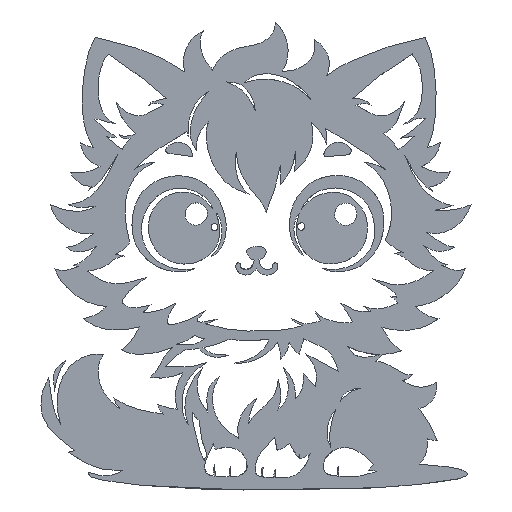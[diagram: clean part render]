
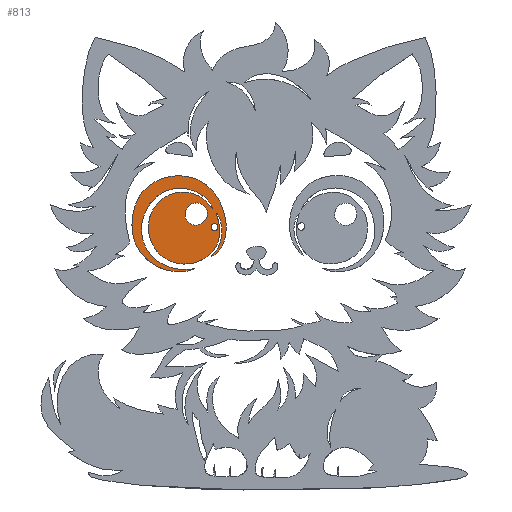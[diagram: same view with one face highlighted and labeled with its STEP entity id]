
A CAD part, top view. The second image highlights one B-rep face of the part: STEP entity #813.
In plain terms, the highlighted planar face has unit normal (0, 0, 1).
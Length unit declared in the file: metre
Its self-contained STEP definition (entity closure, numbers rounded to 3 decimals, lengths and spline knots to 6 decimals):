
#813=ADVANCED_FACE('',(#1684,#1685,#1686),#1687,.T.);
#1684=FACE_BOUND('',#2999,.T.);
#1685=FACE_OUTER_BOUND('',#3000,.T.);
#1686=FACE_BOUND('',#3001,.T.);
#1687=PLANE('',#3002);
#2999=EDGE_LOOP('',(#6835));
#3000=EDGE_LOOP('',(#6836,#6837,#6838,#6839));
#3001=EDGE_LOOP('',(#6840));
#3002=AXIS2_PLACEMENT_3D('',#6841,#6842,#6843);
#6835=ORIENTED_EDGE('',*,*,#8268,.F.);
#6836=ORIENTED_EDGE('',*,*,#8266,.F.);
#6837=ORIENTED_EDGE('',*,*,#8269,.F.);
#6838=ORIENTED_EDGE('',*,*,#8257,.F.);
#6839=ORIENTED_EDGE('',*,*,#8262,.F.);
#6840=ORIENTED_EDGE('',*,*,#8270,.F.);
#6841=CARTESIAN_POINT('',(0.087591,0.164995,0.0));
#6842=DIRECTION('',(0.0,0.0,1.0));
#6843=DIRECTION('',(1.0,0.0,-0.0));
#8257=EDGE_CURVE('',#11067,#11069,#11070,.T.);
#8262=EDGE_CURVE('',#11075,#11067,#11077,.T.);
#8266=EDGE_CURVE('',#11081,#11075,#11083,.T.);
#8268=EDGE_CURVE('',#11085,#11085,#11086,.T.);
#8269=EDGE_CURVE('',#11069,#11081,#11087,.T.);
#8270=EDGE_CURVE('',#11088,#11088,#11089,.T.);
#11067=VERTEX_POINT('',#15144);
#11069=VERTEX_POINT('',#15147);
#11070=B_SPLINE_CURVE_WITH_KNOTS('',3,(#15148,#15149,#15150,#15151,#15152,#15153,#15154,#15155,#15156,#15157,#15158,#15159,#15160,#15161,#15162,#15163,#15164,#15165,#15166),.UNSPECIFIED.,.F.,.F.,(4,1,1,1,1,1,1,1,1,1,1,1,1,1,1,1,4),(0.064943,0.077694,0.094635,0.109325,0.124219,0.140196,0.16106,0.180509,0.201172,0.224205,0.247279,0.266362,0.287119,0.308703,0.331196,0.350619,0.371541),.UNSPECIFIED.);
#11075=VERTEX_POINT('',#15179);
#11077=B_SPLINE_CURVE_WITH_KNOTS('',3,(#15182,#15183,#15184,#15185,#15186,#15187,#15188,#15189),.UNSPECIFIED.,.F.,.F.,(4,1,1,1,1,4),(0.0,0.011755,0.027093,0.046816,0.057498,0.064943),.UNSPECIFIED.);
#11081=VERTEX_POINT('',#15215);
#11083=B_SPLINE_CURVE_WITH_KNOTS('',3,(#15218,#15219,#15220,#15221,#15222,#15223,#15224,#15225,#15226,#15227,#15228,#15229,#15230,#15231,#15232,#15233,#15234,#15235,#15236,#15237,#15238,#15239,#15240),.UNSPECIFIED.,.F.,.F.,(4,1,1,1,1,1,1,1,1,1,1,1,1,1,1,1,1,1,1,1,4),(0.61658,0.628756,0.669548,0.688802,0.708905,0.724552,0.741287,0.764516,0.789948,0.80754,0.836195,0.86254,0.880174,0.896438,0.91473,0.933061,0.948887,0.964688,0.978023,0.991229,1.0),.UNSPECIFIED.);
#11085=VERTEX_POINT('',#15242);
#11086=CIRCLE('',#15243,0.0012);
#11087=B_SPLINE_CURVE_WITH_KNOTS('',3,(#15244,#15245,#15246,#15247,#15248,#15249,#15250,#15251,#15252,#15253,#15254,#15255,#15256,#15257,#15258,#15259,#15260),.UNSPECIFIED.,.F.,.F.,(4,1,1,1,1,1,1,1,1,1,1,1,1,1,4),(0.371541,0.381948,0.398678,0.411419,0.425904,0.448868,0.476038,0.494236,0.5119,0.532684,0.554037,0.571831,0.593244,0.604918,0.61658),.UNSPECIFIED.);
#11088=VERTEX_POINT('',#15261);
#11089=(B_SPLINE_CURVE(3,(#15263,#15264,#15265,#15266,#15267,#15268,#15269),.UNSPECIFIED.,.T.,.F.)B_SPLINE_CURVE_WITH_KNOTS((4,3,4),(0.0,0.5,1.0),.UNSPECIFIED.)RATIONAL_B_SPLINE_CURVE((1.0,0.333,0.333,1.0,0.333,0.333,1.0))BOUNDED_CURVE()REPRESENTATION_ITEM('')GEOMETRIC_REPRESENTATION_ITEM()CURVE());
#15144=CARTESIAN_POINT('',(0.110172,0.154694,0.0));
#15147=CARTESIAN_POINT('',(0.108981,0.156337,0.0));
#15148=CARTESIAN_POINT('',(0.110172,0.154694,0.0));
#15149=CARTESIAN_POINT('',(0.110475,0.153681,0.0));
#15150=CARTESIAN_POINT('',(0.11118,0.15132,0.0));
#15151=CARTESIAN_POINT('',(0.111637,0.147595,0.0));
#15152=CARTESIAN_POINT('',(0.110624,0.143781,0.0));
#15153=CARTESIAN_POINT('',(0.108485,0.140576,0.0));
#15154=CARTESIAN_POINT('',(0.104972,0.137965,0.0));
#15155=CARTESIAN_POINT('',(0.100352,0.136651,0.0));
#15156=CARTESIAN_POINT('',(0.095199,0.137172,0.0));
#15157=CARTESIAN_POINT('',(0.090454,0.139754,0.0));
#15158=CARTESIAN_POINT('',(0.087085,0.144404,0.0));
#15159=CARTESIAN_POINT('',(0.086035,0.149888,0.0));
#15160=CARTESIAN_POINT('',(0.087168,0.155135,0.0));
#15161=CARTESIAN_POINT('',(0.090341,0.159303,0.0));
#15162=CARTESIAN_POINT('',(0.095112,0.162199,0.0));
#15163=CARTESIAN_POINT('',(0.100606,0.162244,0.0));
#15164=CARTESIAN_POINT('',(0.105589,0.160215,0.0));
#15165=CARTESIAN_POINT('',(0.107822,0.157661,0.0));
#15166=CARTESIAN_POINT('',(0.108981,0.156337,0.0));
#15179=CARTESIAN_POINT('',(0.108512,0.13974,0.0));
#15182=CARTESIAN_POINT('',(0.108512,0.13974,0.0));
#15183=CARTESIAN_POINT('',(0.109183,0.140466,0.0));
#15184=CARTESIAN_POINT('',(0.110727,0.142137,0.0));
#15185=CARTESIAN_POINT('',(0.112126,0.145911,0.0));
#15186=CARTESIAN_POINT('',(0.11225,0.149805,0.0));
#15187=CARTESIAN_POINT('',(0.111384,0.152934,0.0));
#15188=CARTESIAN_POINT('',(0.11062,0.154275,0.0));
#15189=CARTESIAN_POINT('',(0.110172,0.154694,0.0));
#15215=CARTESIAN_POINT('',(0.102536,0.13532,0.0));
#15218=CARTESIAN_POINT('',(0.102536,0.13532,0.0));
#15219=CARTESIAN_POINT('',(0.1017,0.134868,0.0));
#15220=CARTESIAN_POINT('',(0.09737,0.133692,0.0));
#15221=CARTESIAN_POINT('',(0.090863,0.134827,0.0));
#15222=CARTESIAN_POINT('',(0.08552,0.138658,0.0));
#15223=CARTESIAN_POINT('',(0.082588,0.141968,0.0));
#15224=CARTESIAN_POINT('',(0.080954,0.146545,0.0));
#15225=CARTESIAN_POINT('',(0.080413,0.151281,0.0));
#15226=CARTESIAN_POINT('',(0.08127,0.156918,0.0));
#15227=CARTESIAN_POINT('',(0.083559,0.16163,0.0));
#15228=CARTESIAN_POINT('',(0.08801,0.165682,0.0));
#15229=CARTESIAN_POINT('',(0.093745,0.167981,0.0));
#15230=CARTESIAN_POINT('',(0.100214,0.167832,0.0));
#15231=CARTESIAN_POINT('',(0.104994,0.165963,0.0));
#15232=CARTESIAN_POINT('',(0.108362,0.16326,0.0));
#15233=CARTESIAN_POINT('',(0.111238,0.159461,0.0));
#15234=CARTESIAN_POINT('',(0.112817,0.155446,0.0));
#15235=CARTESIAN_POINT('',(0.113614,0.151769,0.0));
#15236=CARTESIAN_POINT('',(0.113692,0.148318,0.0));
#15237=CARTESIAN_POINT('',(0.112824,0.143855,0.0));
#15238=CARTESIAN_POINT('',(0.110777,0.140858,0.0));
#15239=CARTESIAN_POINT('',(0.109244,0.139996,0.0));
#15240=CARTESIAN_POINT('',(0.108512,0.13974,0.0));
#15242=CARTESIAN_POINT('',(0.110739,0.149822,0.0));
#15243=AXIS2_PLACEMENT_3D('',#15972,#15973,#15974);
#15244=CARTESIAN_POINT('',(0.108981,0.156337,0.0));
#15245=CARTESIAN_POINT('',(0.108645,0.157242,0.0));
#15246=CARTESIAN_POINT('',(0.107475,0.159085,0.0));
#15247=CARTESIAN_POINT('',(0.104935,0.161369,0.0));
#15248=CARTESIAN_POINT('',(0.101496,0.162953,0.0));
#15249=CARTESIAN_POINT('',(0.096835,0.163772,0.0));
#15250=CARTESIAN_POINT('',(0.091286,0.162429,0.0));
#15251=CARTESIAN_POINT('',(0.086872,0.158535,0.0));
#15252=CARTESIAN_POINT('',(0.08433,0.153166,0.0));
#15253=CARTESIAN_POINT('',(0.083754,0.148416,0.0));
#15254=CARTESIAN_POINT('',(0.084809,0.143308,0.0));
#15255=CARTESIAN_POINT('',(0.087641,0.139285,0.0));
#15256=CARTESIAN_POINT('',(0.091788,0.136378,0.0));
#15257=CARTESIAN_POINT('',(0.095916,0.135088,0.0));
#15258=CARTESIAN_POINT('',(0.099648,0.134958,0.0));
#15259=CARTESIAN_POINT('',(0.101564,0.135149,0.0));
#15260=CARTESIAN_POINT('',(0.102536,0.13532,0.0));
#15261=CARTESIAN_POINT('',(0.10708,0.154505,0.0));
#15263=CARTESIAN_POINT('',(0.10708,0.154505,0.0));
#15264=CARTESIAN_POINT('',(0.107256,0.162301,0.0));
#15265=CARTESIAN_POINT('',(0.099381,0.162125,0.0));
#15266=CARTESIAN_POINT('',(0.099205,0.15433,0.0));
#15267=CARTESIAN_POINT('',(0.099029,0.146534,0.0));
#15268=CARTESIAN_POINT('',(0.106904,0.14671,0.0));
#15269=CARTESIAN_POINT('',(0.10708,0.154505,0.0));
#15972=CARTESIAN_POINT('',(0.109539,0.149822,0.0));
#15973=DIRECTION('',(0.0,0.0,1.0));
#15974=DIRECTION('',(1.0,0.0,0.0));
